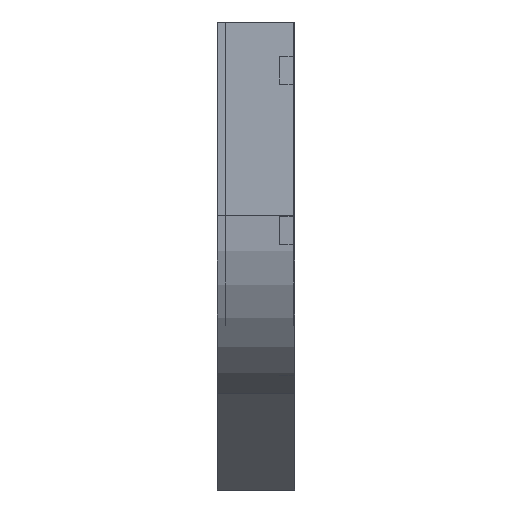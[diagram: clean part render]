
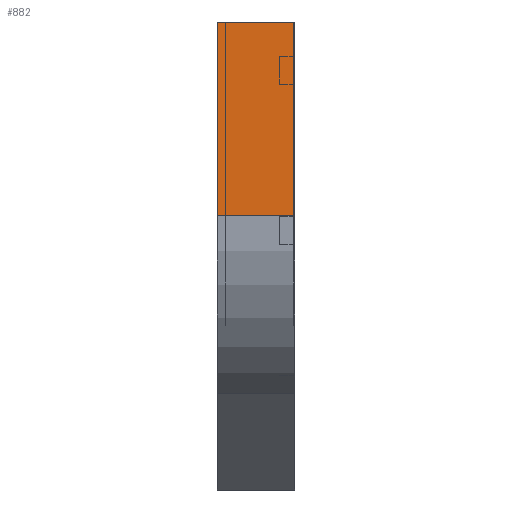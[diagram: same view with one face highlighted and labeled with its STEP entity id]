
A CAD part, left-side view. The second image highlights one B-rep face of the part: STEP entity #882.
In plain terms, the highlighted planar face has unit normal (-1, 0, 0).
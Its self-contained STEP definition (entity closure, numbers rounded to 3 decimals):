
#47 = CARTESIAN_POINT ( 'NONE',  ( 0., 0., 0. ) ) ;
#50 = VERTEX_POINT ( 'NONE', #658 ) ;
#63 = FACE_OUTER_BOUND ( 'NONE', #920, .T. ) ;
#135 = CARTESIAN_POINT ( 'NONE',  ( 0., 0., 0. ) ) ;
#223 = LINE ( 'NONE', #481, #879 ) ;
#304 = EDGE_CURVE ( 'NONE', #790, #1116, #223, .T. ) ;
#323 = LINE ( 'NONE', #1307, #531 ) ;
#348 = DIRECTION ( 'NONE',  ( 0., 0., -1. ) ) ;
#481 = CARTESIAN_POINT ( 'NONE',  ( 0., 112.5, 0. ) ) ;
#531 = VECTOR ( 'NONE', #1752, 1000. ) ;
#614 = DIRECTION ( 'NONE',  ( 0., 0., -1. ) ) ;
#648 = VECTOR ( 'NONE', #708, 1000. ) ;
#658 = CARTESIAN_POINT ( 'NONE',  ( 0., 0., -280.94 ) ) ;
#673 = CARTESIAN_POINT ( 'NONE',  ( 0., 112.5, -280.94 ) ) ;
#682 = EDGE_CURVE ( 'NONE', #790, #1824, #1432, .T. ) ;
#708 = DIRECTION ( 'NONE',  ( 0., -1., 0. ) ) ;
#790 = VERTEX_POINT ( 'NONE', #1606 ) ;
#804 = EDGE_CURVE ( 'NONE', #1116, #50, #323, .T. ) ;
#818 = VECTOR ( 'NONE', #1705, 1000. ) ;
#879 = VECTOR ( 'NONE', #348, 1000. ) ;
#882 = ADVANCED_FACE ( 'NONE', ( #63 ), #1375, .F. ) ;
#920 = EDGE_LOOP ( 'NONE', ( #1033, #1367, #1439, #1420 ) ) ;
#960 = LINE ( 'NONE', #1275, #818 ) ;
#1033 = ORIENTED_EDGE ( 'NONE', *, *, #1373, .F. ) ;
#1116 = VERTEX_POINT ( 'NONE', #673 ) ;
#1209 = DIRECTION ( 'NONE',  ( 1., 0., 0. ) ) ;
#1258 = AXIS2_PLACEMENT_3D ( 'NONE', #47, #1209, #614 ) ;
#1275 = CARTESIAN_POINT ( 'NONE',  ( 0., 0., 0. ) ) ;
#1282 = CARTESIAN_POINT ( 'NONE',  ( 0., 0., 0. ) ) ;
#1307 = CARTESIAN_POINT ( 'NONE',  ( 0., 0., -280.94 ) ) ;
#1367 = ORIENTED_EDGE ( 'NONE', *, *, #682, .F. ) ;
#1373 = EDGE_CURVE ( 'NONE', #1824, #50, #960, .T. ) ;
#1375 = PLANE ( 'NONE',  #1258 ) ;
#1420 = ORIENTED_EDGE ( 'NONE', *, *, #804, .T. ) ;
#1432 = LINE ( 'NONE', #135, #648 ) ;
#1439 = ORIENTED_EDGE ( 'NONE', *, *, #304, .T. ) ;
#1606 = CARTESIAN_POINT ( 'NONE',  ( 0., 112.5, 0. ) ) ;
#1705 = DIRECTION ( 'NONE',  ( 0., 0., -1. ) ) ;
#1752 = DIRECTION ( 'NONE',  ( 0., -1., 0. ) ) ;
#1824 = VERTEX_POINT ( 'NONE', #1282 ) ;
